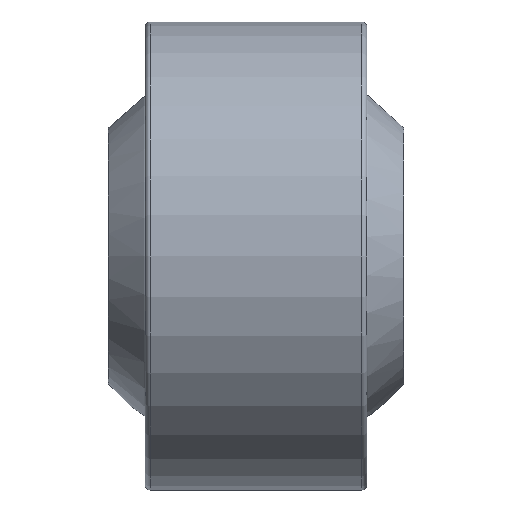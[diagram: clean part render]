
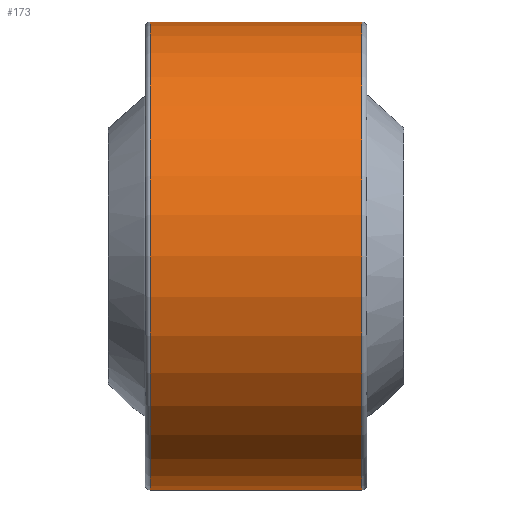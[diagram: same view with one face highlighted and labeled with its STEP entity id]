
A CAD part, front view. The second image highlights one B-rep face of the part: STEP entity #173.
In plain terms, the highlighted cylindrical face has radius 9.5 mm (diameter 19 mm), a full revolution.
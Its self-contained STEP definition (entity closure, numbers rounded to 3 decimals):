
#173 = ADVANCED_FACE( '', ( #195, #196, #197 ), #198, .T. );
#195 = FACE_OUTER_BOUND( '', #231, .T. );
#196 = FACE_BOUND( '', #232, .T. );
#197 = FACE_OUTER_BOUND( '', #233, .T. );
#198 = CYLINDRICAL_SURFACE( '', #234, 9.5 );
#231 = EDGE_LOOP( '', ( #274 ) );
#232 = EDGE_LOOP( '', ( #275 ) );
#233 = EDGE_LOOP( '', ( #276 ) );
#234 = AXIS2_PLACEMENT_3D( '', #277, #278, #279 );
#274 = ORIENTED_EDGE( '', *, *, #316, .T. );
#275 = ORIENTED_EDGE( '', *, *, #317, .T. );
#276 = ORIENTED_EDGE( '', *, *, #314, .F. );
#277 = CARTESIAN_POINT( '', ( 4.5, 0., 0. ) );
#278 = DIRECTION( '', ( -1., 0., 0. ) );
#279 = DIRECTION( '', ( 0., 0., -1. ) );
#314 = EDGE_CURVE( '', #330, #330, #331, .T. );
#316 = EDGE_CURVE( '', #334, #334, #335, .T. );
#317 = EDGE_CURVE( '', #336, #336, #337, .T. );
#330 = VERTEX_POINT( '', #354 );
#331 = CIRCLE( '', #355, 9.5 );
#334 = VERTEX_POINT( '', #358 );
#335 = CIRCLE( '', #359, 9.5 );
#336 = VERTEX_POINT( '', #360 );
#337 = B_SPLINE_CURVE_WITH_KNOTS( '', 3, ( #361, #362, #363, #364, #365, #366, #367, #368, #369, #370, #371, #372, #373, #374, #375, #376, #377, #378, #379, #380, #381, #382, #383, #384, #385, #386, #387, #388, #389, #390, #391, #392 ), .UNSPECIFIED., .T., .F., ( 2, 2, 2, 2, 2, 2, 2, 2, 2, 2, 2, 2, 2, 2, 2, 2, 2, 2 ), ( -0.001, 0., 0., 0.001, 0.001, 0.001, 0.002, 0.002, 0.002, 0.003, 0.003, 0.003, 0.004, 0.004, 0.004, 0.005, 0.005, 0.006 ), .UNSPECIFIED. );
#354 = CARTESIAN_POINT( '', ( 4.3, 0., -9.5 ) );
#355 = AXIS2_PLACEMENT_3D( '', #413, #414, #415 );
#358 = CARTESIAN_POINT( '', ( -4.3, 0., -9.5 ) );
#359 = AXIS2_PLACEMENT_3D( '', #419, #420, #421 );
#360 = CARTESIAN_POINT( '', ( 0.85, 9.5, 0. ) );
#361 = CARTESIAN_POINT( '', ( 0.85, 9.5, -0.225 ) );
#362 = CARTESIAN_POINT( '', ( 0.85, 9.5, 0.112 ) );
#363 = CARTESIAN_POINT( '', ( 0.828, 9.498, 0.223 ) );
#364 = CARTESIAN_POINT( '', ( 0.743, 9.491, 0.428 ) );
#365 = CARTESIAN_POINT( '', ( 0.679, 9.486, 0.523 ) );
#366 = CARTESIAN_POINT( '', ( 0.523, 9.476, 0.679 ) );
#367 = CARTESIAN_POINT( '', ( 0.428, 9.471, 0.743 ) );
#368 = CARTESIAN_POINT( '', ( 0.223, 9.464, 0.828 ) );
#369 = CARTESIAN_POINT( '', ( 0.111, 9.462, 0.85 ) );
#370 = CARTESIAN_POINT( '', ( -0.11, 9.462, 0.85 ) );
#371 = CARTESIAN_POINT( '', ( -0.222, 9.464, 0.828 ) );
#372 = CARTESIAN_POINT( '', ( -0.428, 9.471, 0.743 ) );
#373 = CARTESIAN_POINT( '', ( -0.521, 9.476, 0.681 ) );
#374 = CARTESIAN_POINT( '', ( -0.68, 9.486, 0.522 ) );
#375 = CARTESIAN_POINT( '', ( -0.742, 9.491, 0.429 ) );
#376 = CARTESIAN_POINT( '', ( -0.828, 9.498, 0.223 ) );
#377 = CARTESIAN_POINT( '', ( -0.85, 9.5, 0.111 ) );
#378 = CARTESIAN_POINT( '', ( -0.85, 9.5, -0.111 ) );
#379 = CARTESIAN_POINT( '', ( -0.828, 9.498, -0.223 ) );
#380 = CARTESIAN_POINT( '', ( -0.743, 9.491, -0.427 ) );
#381 = CARTESIAN_POINT( '', ( -0.68, 9.486, -0.522 ) );
#382 = CARTESIAN_POINT( '', ( -0.523, 9.476, -0.679 ) );
#383 = CARTESIAN_POINT( '', ( -0.429, 9.471, -0.742 ) );
#384 = CARTESIAN_POINT( '', ( -0.223, 9.464, -0.828 ) );
#385 = CARTESIAN_POINT( '', ( -0.113, 9.462, -0.85 ) );
#386 = CARTESIAN_POINT( '', ( 0.111, 9.462, -0.85 ) );
#387 = CARTESIAN_POINT( '', ( 0.222, 9.464, -0.828 ) );
#388 = CARTESIAN_POINT( '', ( 0.428, 9.471, -0.743 ) );
#389 = CARTESIAN_POINT( '', ( 0.522, 9.476, -0.68 ) );
#390 = CARTESIAN_POINT( '', ( 0.757, 9.491, -0.445 ) );
#391 = CARTESIAN_POINT( '', ( 0.85, 9.5, -0.225 ) );
#392 = CARTESIAN_POINT( '', ( 0.85, 9.5, 0.112 ) );
#413 = CARTESIAN_POINT( '', ( 4.3, 0., 0. ) );
#414 = DIRECTION( '', ( 1., 0., 0. ) );
#415 = DIRECTION( '', ( 0., 0., -1. ) );
#419 = CARTESIAN_POINT( '', ( -4.3, 0., 0. ) );
#420 = DIRECTION( '', ( 1., 0., 0. ) );
#421 = DIRECTION( '', ( 0., 0., -1. ) );
